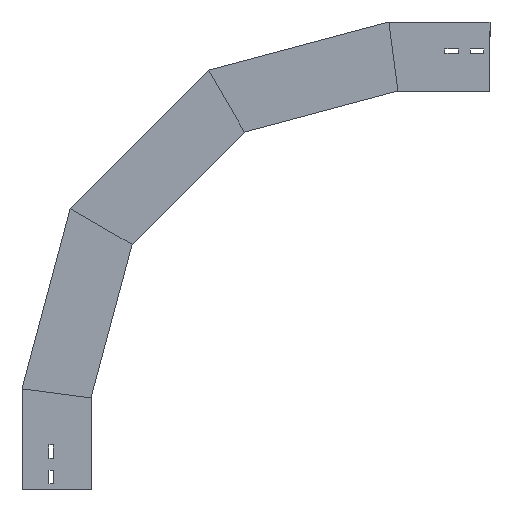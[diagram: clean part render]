
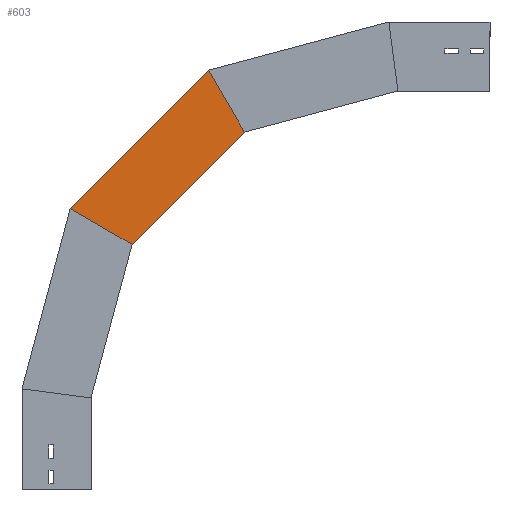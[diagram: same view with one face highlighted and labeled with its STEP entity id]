
A CAD part, left-side view. The second image highlights one B-rep face of the part: STEP entity #603.
In plain terms, the highlighted planar face has unit normal (-1, 0, 0) as drawn and (1, 0, 0) by its records, which use the part's own axes.
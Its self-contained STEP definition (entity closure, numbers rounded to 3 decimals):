
#11 = LINE ( 'NONE', #1761, #530 ) ;
#42 = DIRECTION ( 'NONE',  ( 0., -0.5, -0.866 ) ) ;
#55 = CARTESIAN_POINT ( 'NONE',  ( 0., -250.175, 583.315 ) ) ;
#76 = PLANE ( 'NONE',  #375 ) ;
#124 = EDGE_LOOP ( 'NONE', ( #1045, #596, #162, #1870 ) ) ;
#162 = ORIENTED_EDGE ( 'NONE', *, *, #912, .F. ) ;
#172 = EDGE_CURVE ( 'NONE', #879, #988, #206, .T. ) ;
#206 = LINE ( 'NONE', #1363, #431 ) ;
#375 = AXIS2_PLACEMENT_3D ( 'NONE', #665, #1710, #1109 ) ;
#393 = EDGE_CURVE ( 'NONE', #1601, #877, #11, .T. ) ;
#431 = VECTOR ( 'NONE', #42, 1000. ) ;
#492 = DIRECTION ( 'NONE',  ( 0., -0.707, 0.707 ) ) ;
#508 = FACE_OUTER_BOUND ( 'NONE', #124, .T. ) ;
#530 = VECTOR ( 'NONE', #1318, 1000. ) ;
#596 = ORIENTED_EDGE ( 'NONE', *, *, #172, .T. ) ;
#603 = ADVANCED_FACE ( 'NONE', ( #508 ), #76, .T. ) ;
#665 = CARTESIAN_POINT ( 'NONE',  ( 0., -43.517, 376.657 ) ) ;
#785 = CARTESIAN_POINT ( 'NONE',  ( 0., 33.831, 458.409 ) ) ;
#877 = VERTEX_POINT ( 'NONE', #1767 ) ;
#879 = VERTEX_POINT ( 'NONE', #1040 ) ;
#911 = CARTESIAN_POINT ( 'NONE',  ( 0., -43.517, 376.657 ) ) ;
#912 = EDGE_CURVE ( 'NONE', #877, #988, #1368, .T. ) ;
#988 = VERTEX_POINT ( 'NONE', #55 ) ;
#1040 = CARTESIAN_POINT ( 'NONE',  ( 0., -191.941, 684.18 ) ) ;
#1045 = ORIENTED_EDGE ( 'NONE', *, *, #1622, .T. ) ;
#1078 = CARTESIAN_POINT ( 'NONE',  ( 0., 36.033, 456.207 ) ) ;
#1109 = DIRECTION ( 'NONE',  ( 0., 0., -1. ) ) ;
#1243 = DIRECTION ( 'NONE',  ( 0., -0.707, 0.707 ) ) ;
#1318 = DIRECTION ( 'NONE',  ( 0., -0.866, -0.5 ) ) ;
#1363 = CARTESIAN_POINT ( 'NONE',  ( 0., -287.996, 517.807 ) ) ;
#1368 = LINE ( 'NONE', #911, #1575 ) ;
#1575 = VECTOR ( 'NONE', #492, 1000. ) ;
#1601 = VERTEX_POINT ( 'NONE', #785 ) ;
#1622 = EDGE_CURVE ( 'NONE', #1601, #879, #1664, .T. ) ;
#1664 = LINE ( 'NONE', #1078, #1877 ) ;
#1710 = DIRECTION ( 'NONE',  ( 1., 0., 0. ) ) ;
#1761 = CARTESIAN_POINT ( 'NONE',  ( 0., -128.762, 364.536 ) ) ;
#1767 = CARTESIAN_POINT ( 'NONE',  ( 0., -67.034, 400.175 ) ) ;
#1870 = ORIENTED_EDGE ( 'NONE', *, *, #393, .F. ) ;
#1877 = VECTOR ( 'NONE', #1243, 1000. ) ;
